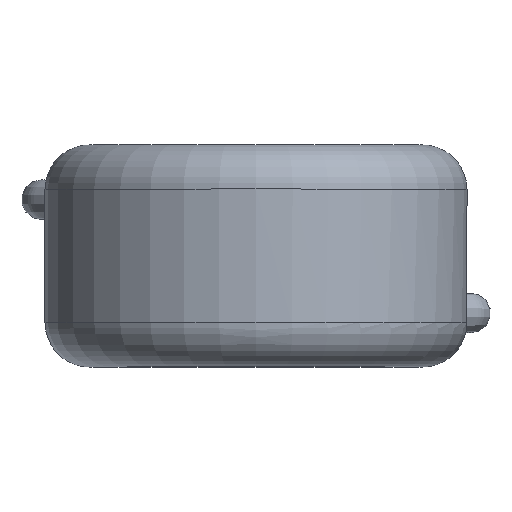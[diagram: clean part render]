
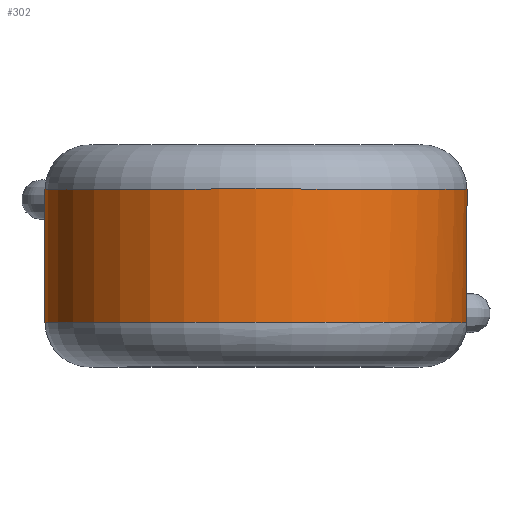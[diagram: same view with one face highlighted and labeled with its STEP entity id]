
A CAD part, top view. The second image highlights one B-rep face of the part: STEP entity #302.
In plain terms, the highlighted cylindrical face has radius 4.75 mm (diameter 9.5 mm), a full revolution.
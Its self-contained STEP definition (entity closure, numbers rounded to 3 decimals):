
#24=B_SPLINE_CURVE_WITH_KNOTS('',3,(#939,#940,#941,#942,#943,#944,#945,
#946,#947,#948),.UNSPECIFIED.,.F.,.F.,(4,1,1,1,1,1,1,4),(-0.227,
-0.195,-0.162,-0.13,-0.097,
-0.065,-0.032,0.),.UNSPECIFIED.);
#26=B_SPLINE_CURVE_WITH_KNOTS('',3,(#1016,#1017,#1018,#1019,#1020,#1021,
#1022,#1023,#1024,#1025),.UNSPECIFIED.,.F.,.F.,(4,1,1,1,1,1,1,4),(-0.227,
-0.195,-0.162,-0.13,-0.097,
-0.065,-0.032,0.),.UNSPECIFIED.);
#72=FACE_OUTER_BOUND('',#92,.T.);
#92=EDGE_LOOP('',(#241,#242,#243,#244,#245,#246,#247,#248,#249,#250));
#105=LINE('',#1010,#108);
#108=VECTOR('',#407,4.75);
#120=CIRCLE('',#347,4.75);
#121=CIRCLE('',#348,4.75);
#122=CIRCLE('',#349,4.75);
#123=CIRCLE('',#351,4.75);
#124=CIRCLE('',#352,4.75);
#125=CIRCLE('',#353,4.75);
#143=VERTEX_POINT('',#935);
#144=VERTEX_POINT('',#937);
#147=VERTEX_POINT('',#1002);
#148=VERTEX_POINT('',#1005);
#149=VERTEX_POINT('',#1009);
#150=VERTEX_POINT('',#1011);
#151=VERTEX_POINT('',#1013);
#152=VERTEX_POINT('',#1015);
#176=EDGE_CURVE('',#143,#144,#24,.T.);
#181=EDGE_CURVE('',#144,#147,#120,.T.);
#182=EDGE_CURVE('',#148,#143,#121,.T.);
#183=EDGE_CURVE('',#147,#148,#122,.T.);
#184=EDGE_CURVE('',#148,#149,#105,.T.);
#185=EDGE_CURVE('',#149,#150,#123,.T.);
#186=EDGE_CURVE('',#150,#151,#124,.T.);
#187=EDGE_CURVE('',#151,#152,#26,.T.);
#188=EDGE_CURVE('',#152,#149,#125,.T.);
#241=ORIENTED_EDGE('',*,*,#176,.T.);
#242=ORIENTED_EDGE('',*,*,#181,.T.);
#243=ORIENTED_EDGE('',*,*,#183,.T.);
#244=ORIENTED_EDGE('',*,*,#184,.T.);
#245=ORIENTED_EDGE('',*,*,#185,.T.);
#246=ORIENTED_EDGE('',*,*,#186,.T.);
#247=ORIENTED_EDGE('',*,*,#187,.T.);
#248=ORIENTED_EDGE('',*,*,#188,.T.);
#249=ORIENTED_EDGE('',*,*,#184,.F.);
#250=ORIENTED_EDGE('',*,*,#182,.T.);
#292=CYLINDRICAL_SURFACE('',#350,4.75);
#302=ADVANCED_FACE('',(#72),#292,.T.);
#347=AXIS2_PLACEMENT_3D('',#1004,#399,#400);
#348=AXIS2_PLACEMENT_3D('',#1006,#401,#402);
#349=AXIS2_PLACEMENT_3D('',#1007,#403,#404);
#350=AXIS2_PLACEMENT_3D('',#1008,#405,#406);
#351=AXIS2_PLACEMENT_3D('',#1012,#408,#409);
#352=AXIS2_PLACEMENT_3D('',#1014,#410,#411);
#353=AXIS2_PLACEMENT_3D('',#1026,#412,#413);
#399=DIRECTION('center_axis',(0.,-1.,0.));
#400=DIRECTION('ref_axis',(-1.,0.,0.));
#401=DIRECTION('center_axis',(0.,-1.,0.));
#402=DIRECTION('ref_axis',(-1.,0.,0.));
#403=DIRECTION('center_axis',(0.,-1.,0.));
#404=DIRECTION('ref_axis',(-1.,0.,0.));
#405=DIRECTION('center_axis',(0.,-1.,0.));
#406=DIRECTION('ref_axis',(1.,0.,0.));
#407=DIRECTION('',(0.,-1.,0.));
#408=DIRECTION('center_axis',(0.,1.,0.));
#409=DIRECTION('ref_axis',(-1.,0.,0.));
#410=DIRECTION('center_axis',(0.,1.,0.));
#411=DIRECTION('ref_axis',(-1.,0.,0.));
#412=DIRECTION('center_axis',(0.,1.,0.));
#413=DIRECTION('ref_axis',(-1.,0.,0.));
#935=CARTESIAN_POINT('',(-3.846,1.5,-2.788));
#937=CARTESIAN_POINT('',(-3.15,1.5,-3.555));
#939=CARTESIAN_POINT('Ctrl Pts',(-3.846,1.5,-2.788));
#940=CARTESIAN_POINT('Ctrl Pts',(-3.87,1.401,-2.754));
#941=CARTESIAN_POINT('Ctrl Pts',(-3.886,1.177,-2.732));
#942=CARTESIAN_POINT('Ctrl Pts',(-3.803,0.873,-2.849));
#943=CARTESIAN_POINT('Ctrl Pts',(-3.63,0.693,-3.069));
#944=CARTESIAN_POINT('Ctrl Pts',(-3.408,0.692,-3.314));
#945=CARTESIAN_POINT('Ctrl Pts',(-3.206,0.872,-3.507));
#946=CARTESIAN_POINT('Ctrl Pts',(-3.099,1.177,-3.6));
#947=CARTESIAN_POINT('Ctrl Pts',(-3.119,1.401,-3.583));
#948=CARTESIAN_POINT('Ctrl Pts',(-3.15,1.5,-3.555));
#1002=CARTESIAN_POINT('',(0.,1.5,-4.75));
#1004=CARTESIAN_POINT('Origin',(0.,1.5,0.));
#1005=CARTESIAN_POINT('',(-4.75,1.5,0.));
#1006=CARTESIAN_POINT('Origin',(0.,1.5,0.));
#1007=CARTESIAN_POINT('Origin',(0.,1.5,0.));
#1008=CARTESIAN_POINT('Origin',(0.,0.,0.));
#1009=CARTESIAN_POINT('',(-4.75,-1.5,0.));
#1010=CARTESIAN_POINT('',(-4.75,0.,0.));
#1011=CARTESIAN_POINT('',(0.,-1.5,4.75));
#1012=CARTESIAN_POINT('Origin',(0.,-1.5,0.));
#1013=CARTESIAN_POINT('',(3.846,-1.5,-2.788));
#1014=CARTESIAN_POINT('Origin',(0.,-1.5,0.));
#1015=CARTESIAN_POINT('',(3.15,-1.5,-3.555));
#1016=CARTESIAN_POINT('Ctrl Pts',(3.846,-1.5,-2.788));
#1017=CARTESIAN_POINT('Ctrl Pts',(3.87,-1.401,-2.754));
#1018=CARTESIAN_POINT('Ctrl Pts',(3.886,-1.177,-2.732));
#1019=CARTESIAN_POINT('Ctrl Pts',(3.803,-0.873,-2.849));
#1020=CARTESIAN_POINT('Ctrl Pts',(3.63,-0.693,-3.069));
#1021=CARTESIAN_POINT('Ctrl Pts',(3.408,-0.692,-3.314));
#1022=CARTESIAN_POINT('Ctrl Pts',(3.206,-0.873,-3.507));
#1023=CARTESIAN_POINT('Ctrl Pts',(3.099,-1.177,-3.6));
#1024=CARTESIAN_POINT('Ctrl Pts',(3.119,-1.401,-3.583));
#1025=CARTESIAN_POINT('Ctrl Pts',(3.15,-1.5,-3.555));
#1026=CARTESIAN_POINT('Origin',(0.,-1.5,0.));
